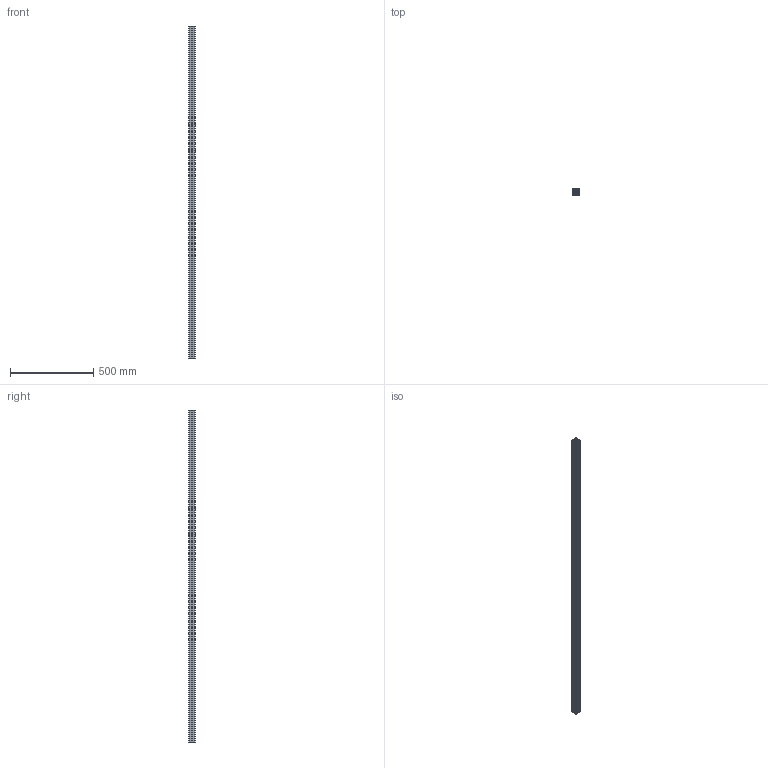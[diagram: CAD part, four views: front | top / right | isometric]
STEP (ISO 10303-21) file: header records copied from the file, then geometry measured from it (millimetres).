
FILE_DESCRIPTION(('STEP AP214'),'1');
FILE_NAME('CA.JU.4040.2000.stp','2020-03-16T08:13:43',(' '),(' '),'Spatial InterOp 3D',' ',' ');
FILE_SCHEMA(('AUTOMOTIVE_DESIGN { 1 0 10303 214 1 1 1 1 }'));
Length unit declared in the file: millimetre
Products named in the file (2): CA.JU.4040.2000
Assembly tree (1 placements, depth 2):
  CA.JU.4040.2000
    CA.JU.4040.2000
Bounding box: 40 x 40 x 2000 mm (x, y, z)
Volume: 1038411.6 mm3; surface area: 1151545.9 mm2
Topology: 1 solids, 1 shells, 167 faces, 495 edges, 330 vertices
Faces by surface type: plane 98, cylinder 69
Full cylindrical faces by diameter (mm): 5 x4, 12.5 x1
Entity records: 7041 total; most frequent: CARTESIAN_POINT 989, ORIENTED_EDGE 980, DIRECTION 966, EDGE_CURVE 490, LINE 352, VECTOR 352, VERTEX_POINT 330, AXIS2_PLACEMENT_3D 307
